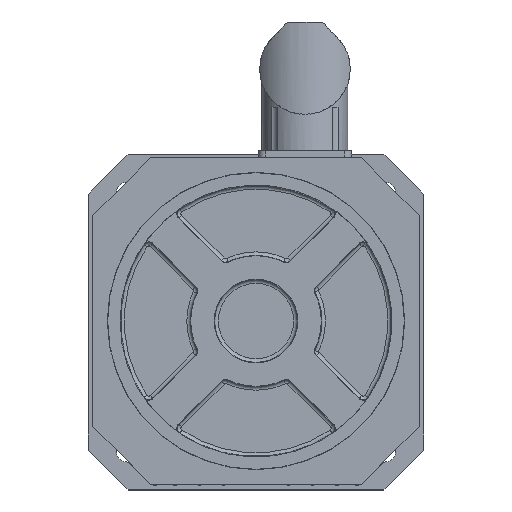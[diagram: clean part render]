
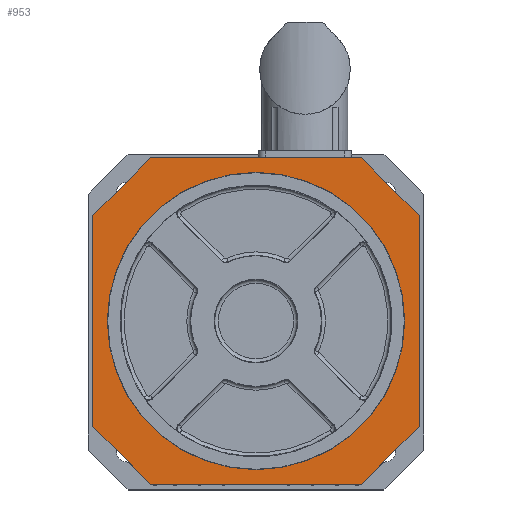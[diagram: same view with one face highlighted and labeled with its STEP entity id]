
A CAD part, top view. The second image highlights one B-rep face of the part: STEP entity #953.
In plain terms, the highlighted planar face has unit normal (0, 0, 1).
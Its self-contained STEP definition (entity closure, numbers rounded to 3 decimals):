
#667=FACE_BOUND('',#1977,.T.);
#762=PLANE('',#7600);
#953=ADVANCED_FACE('',(#667,#1562),#762,.T.);
#1562=FACE_OUTER_BOUND('',#1978,.T.);
#1977=EDGE_LOOP('',(#3877));
#1978=EDGE_LOOP('',(#3878,#3879,#3880,#3881,#3882,#3883,#3884,#3885));
#2467=LINE('',#10995,#2891);
#2468=LINE('',#10998,#2892);
#2469=LINE('',#11000,#2893);
#2470=LINE('',#11002,#2894);
#2471=LINE('',#11004,#2895);
#2472=LINE('',#11006,#2896);
#2473=LINE('',#11008,#2897);
#2474=LINE('',#11010,#2898);
#2891=VECTOR('',#8891,1.);
#2892=VECTOR('',#8892,1.);
#2893=VECTOR('',#8893,1.);
#2894=VECTOR('',#8894,1.);
#2895=VECTOR('',#8895,1.);
#2896=VECTOR('',#8896,1.);
#2897=VECTOR('',#8897,1.);
#2898=VECTOR('',#8898,1.);
#3877=ORIENTED_EDGE('',*,*,#6271,.F.);
#3878=ORIENTED_EDGE('',*,*,#6272,.F.);
#3879=ORIENTED_EDGE('',*,*,#6273,.T.);
#3880=ORIENTED_EDGE('',*,*,#6274,.F.);
#3881=ORIENTED_EDGE('',*,*,#6275,.T.);
#3882=ORIENTED_EDGE('',*,*,#6276,.F.);
#3883=ORIENTED_EDGE('',*,*,#6277,.F.);
#3884=ORIENTED_EDGE('',*,*,#6278,.F.);
#3885=ORIENTED_EDGE('',*,*,#6279,.F.);
#5459=VERTEX_POINT('',#10994);
#5460=VERTEX_POINT('',#10996);
#5461=VERTEX_POINT('',#10997);
#5462=VERTEX_POINT('',#10999);
#5463=VERTEX_POINT('',#11001);
#5464=VERTEX_POINT('',#11003);
#5465=VERTEX_POINT('',#11005);
#5466=VERTEX_POINT('',#11007);
#5467=VERTEX_POINT('',#11009);
#6271=EDGE_CURVE('',#5459,#5459,#7067,.T.);
#6272=EDGE_CURVE('',#5460,#5461,#2467,.T.);
#6273=EDGE_CURVE('',#5460,#5462,#2468,.T.);
#6274=EDGE_CURVE('',#5463,#5462,#2469,.T.);
#6275=EDGE_CURVE('',#5463,#5464,#2470,.T.);
#6276=EDGE_CURVE('',#5465,#5464,#2471,.T.);
#6277=EDGE_CURVE('',#5466,#5465,#2472,.T.);
#6278=EDGE_CURVE('',#5467,#5466,#2473,.T.);
#6279=EDGE_CURVE('',#5461,#5467,#2474,.T.);
#7067=CIRCLE('',#7599,41.);
#7599=AXIS2_PLACEMENT_3D('',#10993,#8889,#8890);
#7600=AXIS2_PLACEMENT_3D('',#11011,#8899,#8900);
#8889=DIRECTION('',(0.,0.,1.));
#8890=DIRECTION('',(1.,0.,0.));
#8891=DIRECTION('',(1.,0.,0.));
#8892=DIRECTION('',(-0.707,-0.707,0.));
#8893=DIRECTION('',(0.,1.,0.));
#8894=DIRECTION('',(0.707,-0.707,0.));
#8895=DIRECTION('',(-1.,0.,0.));
#8896=DIRECTION('',(-0.707,-0.707,0.));
#8897=DIRECTION('',(0.,-1.,0.));
#8898=DIRECTION('',(0.707,-0.707,0.));
#8899=DIRECTION('',(0.,0.,1.));
#8900=DIRECTION('',(1.,0.,0.));
#10993=CARTESIAN_POINT('',(0.,0.,-3.1));
#10994=CARTESIAN_POINT('',(41.,0.,-3.1));
#10995=CARTESIAN_POINT('',(0.,45.,-3.1));
#10996=CARTESIAN_POINT('',(-29.105,45.,-3.1));
#10997=CARTESIAN_POINT('',(29.105,45.,-3.1));
#10998=CARTESIAN_POINT('',(-37.052,37.052,-3.1));
#10999=CARTESIAN_POINT('',(-45.,29.105,-3.1));
#11000=CARTESIAN_POINT('',(-45.,0.,-3.1));
#11001=CARTESIAN_POINT('',(-45.,-29.105,-3.1));
#11002=CARTESIAN_POINT('',(-37.052,-37.052,-3.1));
#11003=CARTESIAN_POINT('',(-29.105,-45.,-3.1));
#11004=CARTESIAN_POINT('',(0.,-45.,-3.1));
#11005=CARTESIAN_POINT('',(29.105,-45.,-3.1));
#11006=CARTESIAN_POINT('',(37.052,-37.052,-3.1));
#11007=CARTESIAN_POINT('',(45.,-29.105,-3.1));
#11008=CARTESIAN_POINT('',(45.,0.,-3.1));
#11009=CARTESIAN_POINT('',(45.,29.105,-3.1));
#11010=CARTESIAN_POINT('',(37.052,37.052,-3.1));
#11011=CARTESIAN_POINT('',(0.,0.,-3.1));
